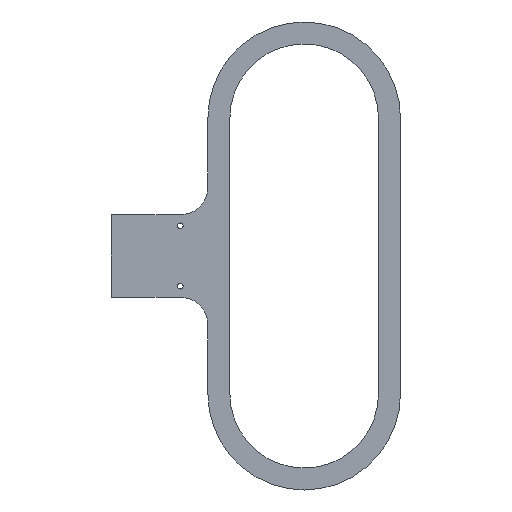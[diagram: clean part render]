
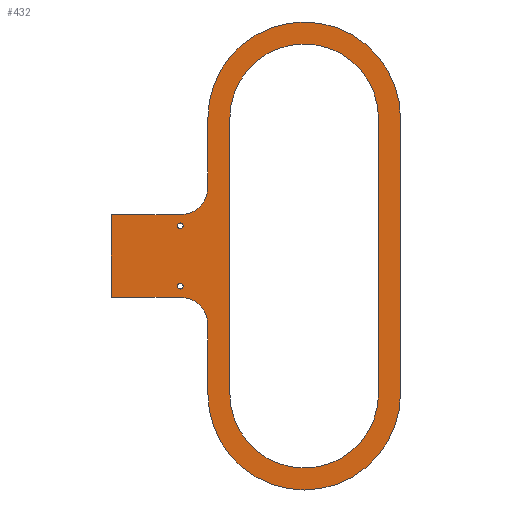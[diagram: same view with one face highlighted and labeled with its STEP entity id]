
A CAD part, left-side view. The second image highlights one B-rep face of the part: STEP entity #432.
In plain terms, the highlighted planar face has unit normal (-1, 0, 0).
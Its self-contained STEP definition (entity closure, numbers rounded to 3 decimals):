
#18=FACE_BOUND('',#80,.T.);
#19=FACE_BOUND('',#81,.T.);
#20=FACE_BOUND('',#82,.T.);
#31=PLANE('',#478);
#54=FACE_OUTER_BOUND('',#79,.T.);
#79=EDGE_LOOP('',(#385,#386,#387,#388,#389,#390,#391,#392,#393,#394));
#80=EDGE_LOOP('',(#395));
#81=EDGE_LOOP('',(#396));
#82=EDGE_LOOP('',(#397,#398,#399,#400));
#99=LINE('',#675,#137);
#103=LINE('',#682,#141);
#106=LINE('',#690,#144);
#108=LINE('',#696,#146);
#111=LINE('',#704,#149);
#114=LINE('',#712,#152);
#117=LINE('',#720,#155);
#120=LINE('',#727,#158);
#137=VECTOR('',#543,10.);
#141=VECTOR('',#549,10.);
#144=VECTOR('',#558,10.);
#146=VECTOR('',#566,10.);
#149=VECTOR('',#575,10.);
#152=VECTOR('',#584,10.);
#155=VECTOR('',#593,10.);
#158=VECTOR('',#602,10.);
#160=CIRCLE('',#437,1.);
#162=CIRCLE('',#440,1.);
#175=CIRCLE('',#460,27.);
#176=CIRCLE('',#463,27.);
#177=CIRCLE('',#466,10.);
#178=CIRCLE('',#469,35.);
#179=CIRCLE('',#472,35.);
#180=CIRCLE('',#475,10.);
#182=VERTEX_POINT('',#611);
#184=VERTEX_POINT('',#617);
#207=VERTEX_POINT('',#672);
#208=VERTEX_POINT('',#674);
#209=VERTEX_POINT('',#679);
#210=VERTEX_POINT('',#681);
#211=VERTEX_POINT('',#685);
#212=VERTEX_POINT('',#689);
#213=VERTEX_POINT('',#695);
#214=VERTEX_POINT('',#699);
#215=VERTEX_POINT('',#703);
#216=VERTEX_POINT('',#707);
#217=VERTEX_POINT('',#711);
#218=VERTEX_POINT('',#715);
#219=VERTEX_POINT('',#719);
#220=VERTEX_POINT('',#723);
#223=EDGE_CURVE('',#182,#182,#160,.T.);
#226=EDGE_CURVE('',#184,#184,#162,.T.);
#253=EDGE_CURVE('',#208,#207,#99,.T.);
#257=EDGE_CURVE('',#210,#209,#103,.T.);
#259=EDGE_CURVE('',#211,#210,#175,.T.);
#261=EDGE_CURVE('',#212,#211,#106,.T.);
#263=EDGE_CURVE('',#209,#212,#176,.T.);
#264=EDGE_CURVE('',#213,#208,#108,.T.);
#266=EDGE_CURVE('',#214,#213,#177,.T.);
#268=EDGE_CURVE('',#215,#214,#111,.T.);
#270=EDGE_CURVE('',#216,#215,#178,.T.);
#272=EDGE_CURVE('',#217,#216,#114,.T.);
#274=EDGE_CURVE('',#218,#217,#179,.T.);
#276=EDGE_CURVE('',#219,#218,#117,.T.);
#278=EDGE_CURVE('',#220,#219,#180,.T.);
#280=EDGE_CURVE('',#207,#220,#120,.T.);
#385=ORIENTED_EDGE('',*,*,#280,.T.);
#386=ORIENTED_EDGE('',*,*,#278,.T.);
#387=ORIENTED_EDGE('',*,*,#276,.T.);
#388=ORIENTED_EDGE('',*,*,#274,.T.);
#389=ORIENTED_EDGE('',*,*,#272,.T.);
#390=ORIENTED_EDGE('',*,*,#270,.T.);
#391=ORIENTED_EDGE('',*,*,#268,.T.);
#392=ORIENTED_EDGE('',*,*,#266,.T.);
#393=ORIENTED_EDGE('',*,*,#264,.T.);
#394=ORIENTED_EDGE('',*,*,#253,.T.);
#395=ORIENTED_EDGE('',*,*,#223,.T.);
#396=ORIENTED_EDGE('',*,*,#226,.T.);
#397=ORIENTED_EDGE('',*,*,#263,.T.);
#398=ORIENTED_EDGE('',*,*,#261,.T.);
#399=ORIENTED_EDGE('',*,*,#259,.T.);
#400=ORIENTED_EDGE('',*,*,#257,.T.);
#432=ADVANCED_FACE('',(#54,#18,#19,#20),#31,.F.);
#437=AXIS2_PLACEMENT_3D('',#613,#486,#487);
#440=AXIS2_PLACEMENT_3D('',#619,#493,#494);
#460=AXIS2_PLACEMENT_3D('',#686,#553,#554);
#463=AXIS2_PLACEMENT_3D('',#693,#562,#563);
#466=AXIS2_PLACEMENT_3D('',#700,#570,#571);
#469=AXIS2_PLACEMENT_3D('',#708,#579,#580);
#472=AXIS2_PLACEMENT_3D('',#716,#588,#589);
#475=AXIS2_PLACEMENT_3D('',#724,#597,#598);
#478=AXIS2_PLACEMENT_3D('',#729,#605,#606);
#486=DIRECTION('center_axis',(1.,0.,0.));
#487=DIRECTION('ref_axis',(0.,1.,0.));
#493=DIRECTION('center_axis',(1.,0.,0.));
#494=DIRECTION('ref_axis',(0.,1.,0.));
#543=DIRECTION('',(0.,0.,-1.));
#549=DIRECTION('',(0.,0.,1.));
#553=DIRECTION('center_axis',(1.,0.,0.));
#554=DIRECTION('ref_axis',(0.,-1.,0.));
#558=DIRECTION('',(0.,0.,-1.));
#562=DIRECTION('center_axis',(1.,0.,0.));
#563=DIRECTION('ref_axis',(0.,1.,0.));
#566=DIRECTION('',(0.,1.,0.));
#570=DIRECTION('center_axis',(1.,0.,0.));
#571=DIRECTION('ref_axis',(0.,-1.,0.));
#575=DIRECTION('',(0.,0.,-1.));
#579=DIRECTION('center_axis',(-1.,0.,0.));
#580=DIRECTION('ref_axis',(0.,1.,0.));
#584=DIRECTION('',(0.,0.,1.));
#588=DIRECTION('center_axis',(-1.,0.,0.));
#589=DIRECTION('ref_axis',(0.,-1.,0.));
#593=DIRECTION('',(0.,0.,-1.));
#597=DIRECTION('center_axis',(1.,0.,0.));
#598=DIRECTION('ref_axis',(0.,0.,1.));
#602=DIRECTION('',(0.,-1.,0.));
#605=DIRECTION('center_axis',(1.,0.,0.));
#606=DIRECTION('ref_axis',(0.,1.,0.));
#611=CARTESIAN_POINT('',(-7.,-18.2,11.));
#613=CARTESIAN_POINT('Origin',(-7.,-17.2,11.));
#617=CARTESIAN_POINT('',(-7.,-18.2,-11.));
#619=CARTESIAN_POINT('Origin',(-7.,-17.2,-11.));
#672=CARTESIAN_POINT('',(-7.,7.8,-15.));
#674=CARTESIAN_POINT('',(-7.,7.8,15.));
#675=CARTESIAN_POINT('',(-7.,7.8,-15.));
#679=CARTESIAN_POINT('',(-7.,-35.2,50.));
#681=CARTESIAN_POINT('',(-7.,-35.2,-50.));
#682=CARTESIAN_POINT('',(-7.,-35.2,-50.));
#685=CARTESIAN_POINT('',(-7.,-89.2,-50.));
#686=CARTESIAN_POINT('Origin',(-7.,-62.2,-50.));
#689=CARTESIAN_POINT('',(-7.,-89.2,50.));
#690=CARTESIAN_POINT('',(-7.,-89.2,50.));
#693=CARTESIAN_POINT('Origin',(-7.,-62.2,50.));
#695=CARTESIAN_POINT('',(-7.,-17.2,15.));
#696=CARTESIAN_POINT('',(-7.,7.8,15.));
#699=CARTESIAN_POINT('',(-7.,-27.2,25.));
#700=CARTESIAN_POINT('Origin',(-7.,-17.2,25.));
#703=CARTESIAN_POINT('',(-7.,-27.2,50.));
#704=CARTESIAN_POINT('',(-7.,-27.2,25.));
#707=CARTESIAN_POINT('',(-7.,-97.2,50.));
#708=CARTESIAN_POINT('Origin',(-7.,-62.2,50.));
#711=CARTESIAN_POINT('',(-7.,-97.2,-50.));
#712=CARTESIAN_POINT('',(-7.,-97.2,50.));
#715=CARTESIAN_POINT('',(-7.,-27.2,-50.));
#716=CARTESIAN_POINT('Origin',(-7.,-62.2,-50.));
#719=CARTESIAN_POINT('',(-7.,-27.2,-25.));
#720=CARTESIAN_POINT('',(-7.,-27.2,-50.));
#723=CARTESIAN_POINT('',(-7.,-17.2,-15.));
#724=CARTESIAN_POINT('Origin',(-7.,-17.2,-25.));
#727=CARTESIAN_POINT('',(-7.,-17.2,-15.));
#729=CARTESIAN_POINT('Origin',(-7.,-44.7,0.));
